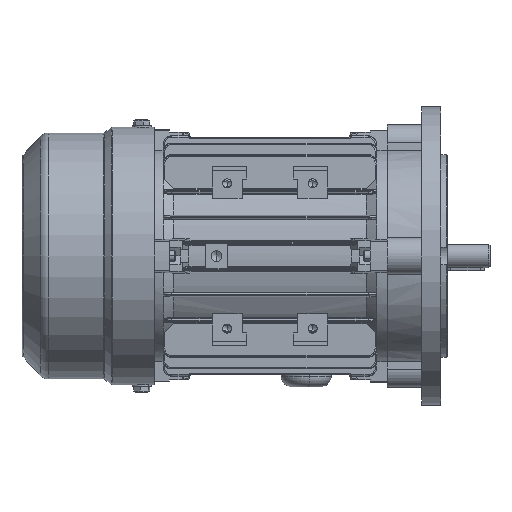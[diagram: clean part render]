
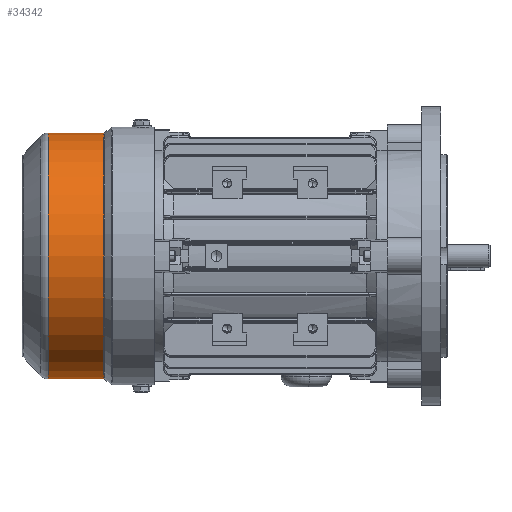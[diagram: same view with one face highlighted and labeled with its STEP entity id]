
A CAD part, front view. The second image highlights one B-rep face of the part: STEP entity #34342.
In plain terms, the highlighted cylindrical face has radius 57.5 mm (diameter 115 mm), a partial arc.
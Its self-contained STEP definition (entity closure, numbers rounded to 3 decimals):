
#3378 = VERTEX_POINT ( 'NONE', #29233 ) ;
#3586 = DIRECTION ( 'NONE',  ( -1., 0., 0. ) ) ;
#8881 = CARTESIAN_POINT ( 'NONE',  ( 10.193, 0., 0. ) ) ;
#10370 = ORIENTED_EDGE ( 'NONE', *, *, #49971, .T. ) ;
#10710 = AXIS2_PLACEMENT_3D ( 'NONE', #86764, #79297, #47878 ) ;
#14208 = DIRECTION ( 'NONE',  ( -1., 0., 0. ) ) ;
#21222 = AXIS2_PLACEMENT_3D ( 'NONE', #8881, #71210, #95399 ) ;
#22006 = AXIS2_PLACEMENT_3D ( 'NONE', #95945, #3586, #58093 ) ;
#24070 = EDGE_CURVE ( 'NONE', #74056, #78748, #41412, .T. ) ;
#24424 = CARTESIAN_POINT ( 'NONE',  ( 0., 0., 57.5 ) ) ;
#26009 = ORIENTED_EDGE ( 'NONE', *, *, #24070, .T. ) ;
#27113 = ORIENTED_EDGE ( 'NONE', *, *, #65287, .T. ) ;
#29233 = CARTESIAN_POINT ( 'NONE',  ( 36.149, 0., -57.5 ) ) ;
#31002 = LINE ( 'NONE', #24424, #72551 ) ;
#34342 = ADVANCED_FACE ( 'NONE', ( #42426 ), #47302, .T. ) ;
#36975 = EDGE_LOOP ( 'NONE', ( #74582, #10370, #27113, #26009 ) ) ;
#41412 = CIRCLE ( 'NONE', #21222, 57.5 ) ;
#42348 = VECTOR ( 'NONE', #14208, 1000. ) ;
#42426 = FACE_OUTER_BOUND ( 'NONE', #36975, .T. ) ;
#44514 = CIRCLE ( 'NONE', #22006, 57.5 ) ;
#44766 = LINE ( 'NONE', #60896, #42348 ) ;
#47302 = CYLINDRICAL_SURFACE ( 'NONE', #10710, 57.5 ) ;
#47878 = DIRECTION ( 'NONE',  ( 0., 0., 1. ) ) ;
#49971 = EDGE_CURVE ( 'NONE', #3378, #59147, #44514, .T. ) ;
#54340 = CARTESIAN_POINT ( 'NONE',  ( 36.149, 0., 57.5 ) ) ;
#58093 = DIRECTION ( 'NONE',  ( 0., 0., 1. ) ) ;
#59147 = VERTEX_POINT ( 'NONE', #54340 ) ;
#60896 = CARTESIAN_POINT ( 'NONE',  ( 0., 0., -57.5 ) ) ;
#63482 = CARTESIAN_POINT ( 'NONE',  ( 10.193, 0., 57.5 ) ) ;
#65287 = EDGE_CURVE ( 'NONE', #59147, #74056, #31002, .T. ) ;
#70456 = DIRECTION ( 'NONE',  ( -1., 0., 0. ) ) ;
#71210 = DIRECTION ( 'NONE',  ( 1., 0., 0. ) ) ;
#72551 = VECTOR ( 'NONE', #70456, 1000. ) ;
#74056 = VERTEX_POINT ( 'NONE', #63482 ) ;
#74582 = ORIENTED_EDGE ( 'NONE', *, *, #95356, .F. ) ;
#75569 = CARTESIAN_POINT ( 'NONE',  ( 10.193, 0., -57.5 ) ) ;
#78748 = VERTEX_POINT ( 'NONE', #75569 ) ;
#79297 = DIRECTION ( 'NONE',  ( -1., 0., 0. ) ) ;
#86764 = CARTESIAN_POINT ( 'NONE',  ( 0., 0., 0. ) ) ;
#95356 = EDGE_CURVE ( 'NONE', #3378, #78748, #44766, .T. ) ;
#95399 = DIRECTION ( 'NONE',  ( 0., 0., -1. ) ) ;
#95945 = CARTESIAN_POINT ( 'NONE',  ( 36.149, 0., 0. ) ) ;
